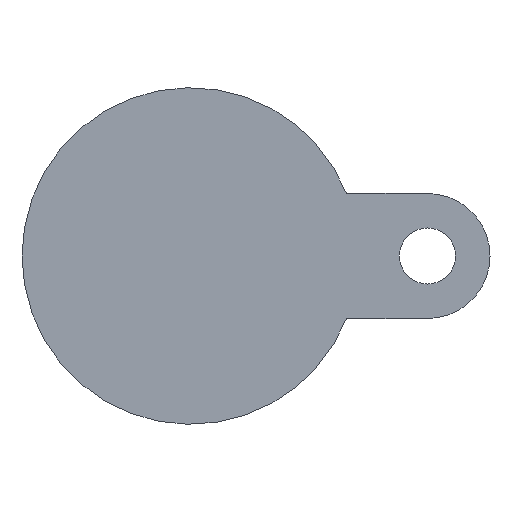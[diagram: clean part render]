
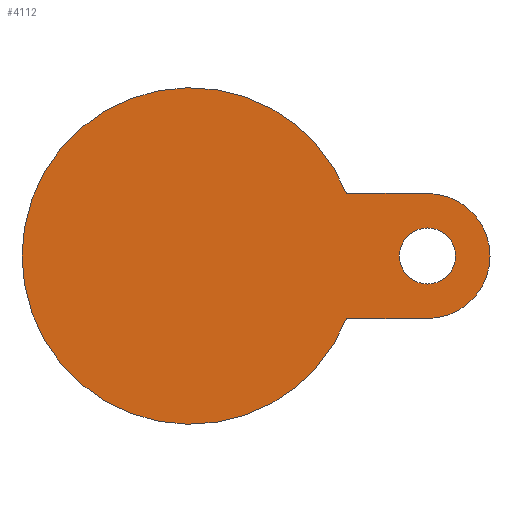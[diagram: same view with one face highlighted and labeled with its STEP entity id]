
A CAD part, front view. The second image highlights one B-rep face of the part: STEP entity #4112.
In plain terms, the highlighted planar face has unit normal (0, -1, 0).
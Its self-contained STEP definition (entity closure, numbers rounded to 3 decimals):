
#97 = ORIENTED_EDGE ( 'NONE', *, *, #4723, .F. ) ;
#194 = CARTESIAN_POINT ( 'NONE',  ( 74., -25., 0. ) ) ;
#197 = VERTEX_POINT ( 'NONE', #2872 ) ;
#206 = EDGE_LOOP ( 'NONE', ( #5167, #4824, #2034, #2216, #2717, #4625 ) ) ;
#348 = VERTEX_POINT ( 'NONE', #3041 ) ;
#395 = CARTESIAN_POINT ( 'NONE',  ( 0., -25., 0. ) ) ;
#680 = DIRECTION ( 'NONE',  ( 0., -1., 0. ) ) ;
#707 = VECTOR ( 'NONE', #1931, 1000. ) ;
#803 = CARTESIAN_POINT ( 'NONE',  ( 93.5, -25., 0. ) ) ;
#869 = AXIS2_PLACEMENT_3D ( 'NONE', #2859, #680, #5361 ) ;
#905 = VERTEX_POINT ( 'NONE', #5003 ) ;
#1071 = CARTESIAN_POINT ( 'NONE',  ( 74., -25., -19.5 ) ) ;
#1269 = CARTESIAN_POINT ( 'NONE',  ( 0., -25., 0. ) ) ;
#1493 = CARTESIAN_POINT ( 'NONE',  ( 74., -25., 0. ) ) ;
#1545 = EDGE_CURVE ( 'NONE', #1616, #2082, #2574, .T. ) ;
#1616 = VERTEX_POINT ( 'NONE', #1071 ) ;
#1630 = DIRECTION ( 'NONE',  ( 0., -1., 0. ) ) ;
#1652 = CIRCLE ( 'NONE', #869, 19.5 ) ;
#1658 = DIRECTION ( 'NONE',  ( 1., 0., 0. ) ) ;
#1931 = DIRECTION ( 'NONE',  ( -1., 0., 0. ) ) ;
#1956 = DIRECTION ( 'NONE',  ( 1., 0., 0. ) ) ;
#2034 = ORIENTED_EDGE ( 'NONE', *, *, #3573, .F. ) ;
#2082 = VERTEX_POINT ( 'NONE', #803 ) ;
#2128 = DIRECTION ( 'NONE',  ( 1., 0., 0. ) ) ;
#2130 = AXIS2_PLACEMENT_3D ( 'NONE', #4029, #2807, #1956 ) ;
#2216 = ORIENTED_EDGE ( 'NONE', *, *, #2470, .T. ) ;
#2261 = CARTESIAN_POINT ( 'NONE',  ( 42.597, -25., 19.5 ) ) ;
#2280 = EDGE_CURVE ( 'NONE', #5047, #3293, #4596, .T. ) ;
#2296 = DIRECTION ( 'NONE',  ( 0., 1., 0. ) ) ;
#2319 = LINE ( 'NONE', #2261, #707 ) ;
#2327 = CARTESIAN_POINT ( 'NONE',  ( -52.5, -25., 0. ) ) ;
#2329 = DIRECTION ( 'NONE',  ( 1., 0., 0. ) ) ;
#2410 = LINE ( 'NONE', #4100, #3357 ) ;
#2470 = EDGE_CURVE ( 'NONE', #905, #1616, #2410, .T. ) ;
#2574 = CIRCLE ( 'NONE', #2130, 19.5 ) ;
#2645 = AXIS2_PLACEMENT_3D ( 'NONE', #395, #1630, #1658 ) ;
#2659 = CARTESIAN_POINT ( 'NONE',  ( 0., -25., 0. ) ) ;
#2708 = CIRCLE ( 'NONE', #3409, 52.5 ) ;
#2717 = ORIENTED_EDGE ( 'NONE', *, *, #1545, .T. ) ;
#2795 = CIRCLE ( 'NONE', #3502, 52.5 ) ;
#2807 = DIRECTION ( 'NONE',  ( 0., -1., 0. ) ) ;
#2859 = CARTESIAN_POINT ( 'NONE',  ( 74., -25., 0. ) ) ;
#2872 = CARTESIAN_POINT ( 'NONE',  ( 48.744, -25., 19.5 ) ) ;
#3019 = DIRECTION ( 'NONE',  ( 0., 1., 0. ) ) ;
#3041 = CARTESIAN_POINT ( 'NONE',  ( 74., -25., 19.5 ) ) ;
#3293 = VERTEX_POINT ( 'NONE', #4021 ) ;
#3357 = VECTOR ( 'NONE', #2128, 1000. ) ;
#3409 = AXIS2_PLACEMENT_3D ( 'NONE', #1269, #3019, #4646 ) ;
#3429 = EDGE_CURVE ( 'NONE', #3604, #197, #2708, .T. ) ;
#3502 = AXIS2_PLACEMENT_3D ( 'NONE', #2659, #2296, #3545 ) ;
#3545 = DIRECTION ( 'NONE',  ( -1., 0., 0. ) ) ;
#3546 = AXIS2_PLACEMENT_3D ( 'NONE', #1493, #5301, #2329 ) ;
#3573 = EDGE_CURVE ( 'NONE', #905, #3604, #2795, .T. ) ;
#3604 = VERTEX_POINT ( 'NONE', #2327 ) ;
#3738 = FACE_OUTER_BOUND ( 'NONE', #206, .T. ) ;
#3954 = DIRECTION ( 'NONE',  ( 0., -1., 0. ) ) ;
#4021 = CARTESIAN_POINT ( 'NONE',  ( 65.25, -25., 0. ) ) ;
#4029 = CARTESIAN_POINT ( 'NONE',  ( 74., -25., 0. ) ) ;
#4099 = EDGE_LOOP ( 'NONE', ( #5073, #97 ) ) ;
#4100 = CARTESIAN_POINT ( 'NONE',  ( 74., -25., -19.5 ) ) ;
#4112 = ADVANCED_FACE ( 'NONE', ( #3738, #5437 ), #4184, .T. ) ;
#4184 = PLANE ( 'NONE',  #2645 ) ;
#4382 = CIRCLE ( 'NONE', #4765, 8.75 ) ;
#4445 = DIRECTION ( 'NONE',  ( 1., 0., 0. ) ) ;
#4596 = CIRCLE ( 'NONE', #3546, 8.75 ) ;
#4625 = ORIENTED_EDGE ( 'NONE', *, *, #5196, .T. ) ;
#4646 = DIRECTION ( 'NONE',  ( -1., 0., 0. ) ) ;
#4669 = EDGE_CURVE ( 'NONE', #348, #197, #2319, .T. ) ;
#4723 = EDGE_CURVE ( 'NONE', #3293, #5047, #4382, .T. ) ;
#4765 = AXIS2_PLACEMENT_3D ( 'NONE', #194, #3954, #4445 ) ;
#4824 = ORIENTED_EDGE ( 'NONE', *, *, #3429, .F. ) ;
#5003 = CARTESIAN_POINT ( 'NONE',  ( 48.744, -25., -19.5 ) ) ;
#5047 = VERTEX_POINT ( 'NONE', #5205 ) ;
#5073 = ORIENTED_EDGE ( 'NONE', *, *, #2280, .F. ) ;
#5167 = ORIENTED_EDGE ( 'NONE', *, *, #4669, .T. ) ;
#5196 = EDGE_CURVE ( 'NONE', #2082, #348, #1652, .T. ) ;
#5205 = CARTESIAN_POINT ( 'NONE',  ( 82.75, -25., 0. ) ) ;
#5301 = DIRECTION ( 'NONE',  ( 0., -1., 0. ) ) ;
#5361 = DIRECTION ( 'NONE',  ( 1., 0., 0. ) ) ;
#5437 = FACE_BOUND ( 'NONE', #4099, .T. ) ;
